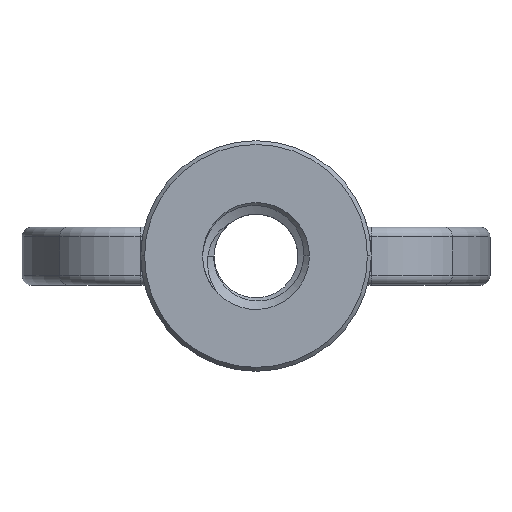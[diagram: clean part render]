
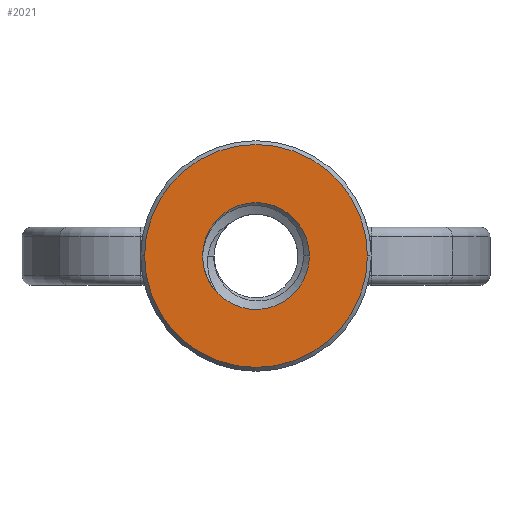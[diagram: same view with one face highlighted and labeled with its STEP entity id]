
A CAD part, top view. The second image highlights one B-rep face of the part: STEP entity #2021.
In plain terms, the highlighted planar face has unit normal (0, 0, 1).
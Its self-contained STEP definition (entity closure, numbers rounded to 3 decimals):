
#40 = CARTESIAN_POINT ( 'NONE',  ( -2.141, -2.102, 0. ) ) ;
#54 = AXIS2_PLACEMENT_3D ( 'NONE', #2450, #1006, #2682 ) ;
#65 = EDGE_LOOP ( 'NONE', ( #2287, #1076 ) ) ;
#90 = CARTESIAN_POINT ( 'NONE',  ( 3., 0., 0. ) ) ;
#100 = EDGE_CURVE ( 'NONE', #927, #565, #354, .T. ) ;
#212 = CIRCLE ( 'NONE', #1122, 6.263 ) ;
#216 = EDGE_CURVE ( 'NONE', #565, #927, #212, .T. ) ;
#249 = CIRCLE ( 'NONE', #54, 3. ) ;
#354 = CIRCLE ( 'NONE', #2087, 6.263 ) ;
#409 = CARTESIAN_POINT ( 'NONE',  ( 6.263, 0., 0. ) ) ;
#561 = EDGE_LOOP ( 'NONE', ( #2363, #1153, #3064 ) ) ;
#565 = VERTEX_POINT ( 'NONE', #2145 ) ;
#701 = CARTESIAN_POINT ( 'NONE',  ( 0., 0., 0. ) ) ;
#728 = CARTESIAN_POINT ( 'NONE',  ( 0., 0., 0. ) ) ;
#757 = AXIS2_PLACEMENT_3D ( 'NONE', #2794, #1355, #3032 ) ;
#805 = VERTEX_POINT ( 'NONE', #40 ) ;
#865 = CARTESIAN_POINT ( 'NONE',  ( -3., 0., 0. ) ) ;
#880 = VERTEX_POINT ( 'NONE', #90 ) ;
#927 = VERTEX_POINT ( 'NONE', #409 ) ;
#961 = DIRECTION ( 'NONE',  ( 1., 0., 0. ) ) ;
#988 = DIRECTION ( 'NONE',  ( 1., 0., 0. ) ) ;
#993 = EDGE_CURVE ( 'NONE', #805, #880, #2930, .T. ) ;
#1006 = DIRECTION ( 'NONE',  ( 0., 0., 1. ) ) ;
#1037 = EDGE_CURVE ( 'NONE', #880, #1354, #249, .T. ) ;
#1076 = ORIENTED_EDGE ( 'NONE', *, *, #100, .T. ) ;
#1122 = AXIS2_PLACEMENT_3D ( 'NONE', #3185, #3122, #3102 ) ;
#1153 = ORIENTED_EDGE ( 'NONE', *, *, #1933, .F. ) ;
#1354 = VERTEX_POINT ( 'NONE', #865 ) ;
#1355 = DIRECTION ( 'NONE',  ( 0., 0., 1. ) ) ;
#1483 = FACE_BOUND ( 'NONE', #561, .T. ) ;
#1561 = FACE_OUTER_BOUND ( 'NONE', #65, .T. ) ;
#1607 = DIRECTION ( 'NONE',  ( 1., 0., 0. ) ) ;
#1851 = PLANE ( 'NONE',  #757 ) ;
#1933 = EDGE_CURVE ( 'NONE', #1354, #805, #2824, .T. ) ;
#2021 = ADVANCED_FACE ( 'NONE', ( #1561, #1483 ), #1851, .T. ) ;
#2087 = AXIS2_PLACEMENT_3D ( 'NONE', #2541, #2605, #1607 ) ;
#2145 = CARTESIAN_POINT ( 'NONE',  ( -6.263, 0., 0. ) ) ;
#2287 = ORIENTED_EDGE ( 'NONE', *, *, #216, .T. ) ;
#2363 = ORIENTED_EDGE ( 'NONE', *, *, #993, .F. ) ;
#2401 = DIRECTION ( 'NONE',  ( 0., 0., 1. ) ) ;
#2434 = DIRECTION ( 'NONE',  ( 0., 0., 1. ) ) ;
#2450 = CARTESIAN_POINT ( 'NONE',  ( 0., 0., 0. ) ) ;
#2541 = CARTESIAN_POINT ( 'NONE',  ( 0., 0., 0. ) ) ;
#2605 = DIRECTION ( 'NONE',  ( 0., 0., 1. ) ) ;
#2682 = DIRECTION ( 'NONE',  ( 1., 0., 0. ) ) ;
#2794 = CARTESIAN_POINT ( 'NONE',  ( 0., 0., 0. ) ) ;
#2824 = CIRCLE ( 'NONE', #2919, 3. ) ;
#2919 = AXIS2_PLACEMENT_3D ( 'NONE', #728, #2434, #988 ) ;
#2930 = CIRCLE ( 'NONE', #3205, 3. ) ;
#3032 = DIRECTION ( 'NONE',  ( 1., 0., 0. ) ) ;
#3064 = ORIENTED_EDGE ( 'NONE', *, *, #1037, .F. ) ;
#3102 = DIRECTION ( 'NONE',  ( 1., 0., 0. ) ) ;
#3122 = DIRECTION ( 'NONE',  ( 0., 0., 1. ) ) ;
#3185 = CARTESIAN_POINT ( 'NONE',  ( 0., 0., 0. ) ) ;
#3205 = AXIS2_PLACEMENT_3D ( 'NONE', #701, #2401, #961 ) ;
